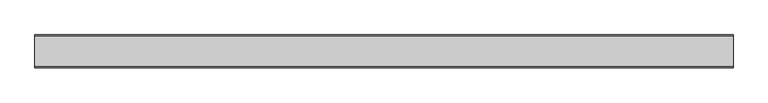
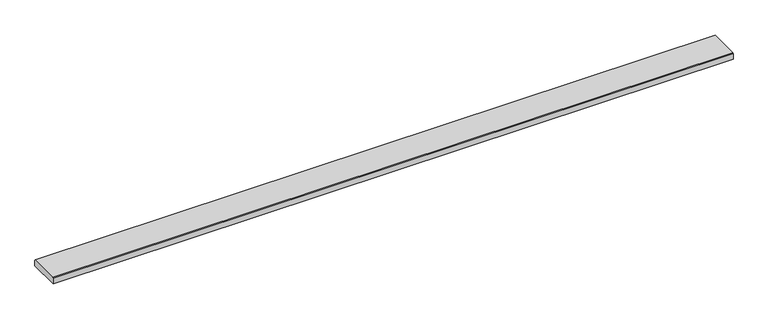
"""IFC4 building model written with IfcOpenShell, lengths in millimetres: proxy geometry."""

from ifc_helpers import new_model, si_unit, frame, origin, place, context, project, spatial, polyline, outline, extrude, source, transform, mapped, element, save


def generic_models_722abc01(model_context):
    return source(origin(), model_context, "Body", "SweptSolid", [
        extrude(outline(polyline([(0.0, 20.868936), (2.245064, 23.114), (112.054936, 23.114), (114.3, 20.868936), (114.3, 0.0), (0.0, 0.0), (0.0, 20.868936)])), frame((0.0, 0.0, 0.0), z_axis=(1.0, 0.0, 0.0), x_axis=(0.0, 1.0, 0.0)), (0.0, 0.0, 1.0), 2438.4),
    ])


if __name__ == "__main__":
    model = new_model("IFC4")
    model_context = context("Model", 3, world=origin())
    ifc_project = project(units=[si_unit("LENGTHUNIT", "METRE", prefix="MILLI")], contexts=[model_context])
    site = spatial("IfcSite", under=ifc_project)
    building = spatial("IfcBuilding", under=site)
    placement = place(None, origin())
    generic_models_shape = generic_models_722abc01(model_context)
    element("IfcBuildingElementProxy", 1, Name="540 Series Reversible Trim (Fiber) : 540 Series Reversible Trim (Fiber) - 4.5\"", ObjectType="540 Series Reversible Trim (Fiber) : 540 Series Reversible Trim (Fiber) - 4.5\"", at=placement, inside=building, context=model_context, shape_type="MappedRepresentation", body=[
        mapped(generic_models_shape, transform((0.0, 0.0, 0.0), x_axis=(1.0, 0.0, 0.0), y_axis=(0.0, 1.0, 0.0), z_axis=(0.0, 0.0, 1.0))),
    ])
    save(model, "model.ifc")
